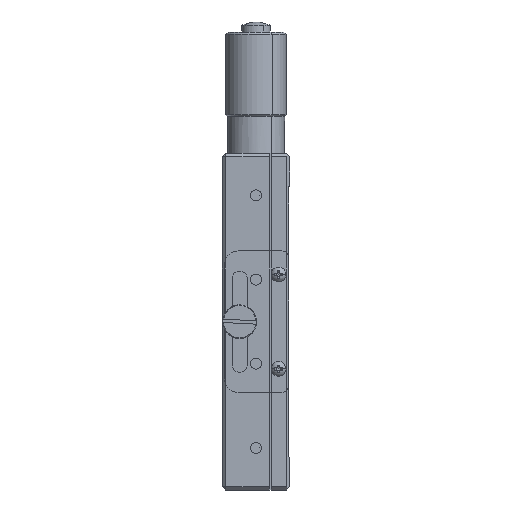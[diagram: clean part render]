
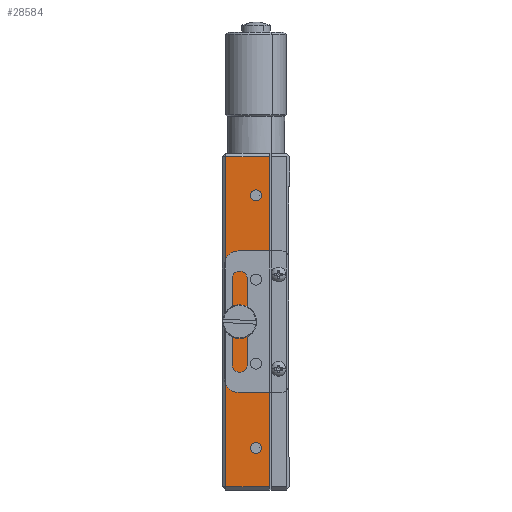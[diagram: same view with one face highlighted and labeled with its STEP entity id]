
A CAD part, left-side view. The second image highlights one B-rep face of the part: STEP entity #28584.
In plain terms, the highlighted planar face has unit normal (-1, 0, 0).
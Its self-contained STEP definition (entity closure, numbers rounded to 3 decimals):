
#259 = VERTEX_POINT ( 'NONE', #24310 ) ;
#405 = CARTESIAN_POINT ( 'NONE',  ( -50., 14.85, -51.65 ) ) ;
#526 = EDGE_LOOP ( 'NONE', ( #62880, #63104 ) ) ;
#1198 = AXIS2_PLACEMENT_3D ( 'NONE', #52489, #13809, #58879 ) ;
#1474 = AXIS2_PLACEMENT_3D ( 'NONE', #74197, #35602, #80610 ) ;
#3101 = CIRCLE ( 'NONE', #58602, 1.65 ) ;
#3130 = CARTESIAN_POINT ( 'NONE',  ( -50., 10., -87.5 ) ) ;
#3352 = CARTESIAN_POINT ( 'NONE',  ( -50., 10., -12.5 ) ) ;
#4309 = DIRECTION ( 'NONE',  ( -1., 0., 0. ) ) ;
#5387 = CARTESIAN_POINT ( 'NONE',  ( -50., 14.85, -48.35 ) ) ;
#5516 = AXIS2_PLACEMENT_3D ( 'NONE', #58438, #58137, #57764 ) ;
#5554 = CARTESIAN_POINT ( 'NONE',  ( -50., 10., -39.15 ) ) ;
#6186 = LINE ( 'NONE', #46962, #70825 ) ;
#6877 = EDGE_CURVE ( 'NONE', #75825, #41485, #36687, .T. ) ;
#7498 = EDGE_CURVE ( 'NONE', #46618, #44050, #63796, .T. ) ;
#9727 = DIRECTION ( 'NONE',  ( 0., 0., 1. ) ) ;
#9962 = DIRECTION ( 'NONE',  ( 0., 0., 1. ) ) ;
#11026 = EDGE_LOOP ( 'NONE', ( #69610, #70169, #71509, #72922 ) ) ;
#11140 = CIRCLE ( 'NONE', #66495, 1.65 ) ;
#13809 = DIRECTION ( 'NONE',  ( -1., 0., 0. ) ) ;
#14623 = AXIS2_PLACEMENT_3D ( 'NONE', #3130, #48452, #9727 ) ;
#15842 = CIRCLE ( 'NONE', #24121, 1.65 ) ;
#18224 = DIRECTION ( 'NONE',  ( -1., 0., 0. ) ) ;
#18412 = CARTESIAN_POINT ( 'NONE',  ( -50., 6., -1. ) ) ;
#18789 = CARTESIAN_POINT ( 'NONE',  ( -50., 10., -37.5 ) ) ;
#20315 = FACE_OUTER_BOUND ( 'NONE', #11026, .T. ) ;
#21563 = EDGE_LOOP ( 'NONE', ( #66857, #67202 ) ) ;
#21945 = CARTESIAN_POINT ( 'NONE',  ( -50., 6., 0. ) ) ;
#22293 = CARTESIAN_POINT ( 'NONE',  ( -50., 6., -99. ) ) ;
#22380 = FACE_BOUND ( 'NONE', #44423, .T. ) ;
#22484 = PLANE ( 'NONE',  #54404 ) ;
#22878 = CARTESIAN_POINT ( 'NONE',  ( -50., 10., -89.15 ) ) ;
#24121 = AXIS2_PLACEMENT_3D ( 'NONE', #3352, #48670, #9962 ) ;
#24222 = LINE ( 'NONE', #74585, #35058 ) ;
#24310 = CARTESIAN_POINT ( 'NONE',  ( -50., 10., -35.85 ) ) ;
#24656 = VERTEX_POINT ( 'NONE', #5387 ) ;
#25380 = DIRECTION ( 'NONE',  ( 0., 0., 1. ) ) ;
#26278 = CIRCLE ( 'NONE', #1474, 1.65 ) ;
#27189 = DIRECTION ( 'NONE',  ( -1., 0., 0. ) ) ;
#28584 = ADVANCED_FACE ( 'NONE', ( #56501, #22380, #71716, #54538, #37437, #20315 ), #22484, .T. ) ;
#28593 = CARTESIAN_POINT ( 'NONE',  ( -50., 19., -1. ) ) ;
#29050 = CIRCLE ( 'NONE', #14623, 1.65 ) ;
#30037 = AXIS2_PLACEMENT_3D ( 'NONE', #53856, #53782, #53688 ) ;
#31877 = LINE ( 'NONE', #59781, #81204 ) ;
#33410 = EDGE_CURVE ( 'NONE', #62656, #62367, #29050, .T. ) ;
#34262 = DIRECTION ( 'NONE',  ( 0., -1., 0. ) ) ;
#35058 = VECTOR ( 'NONE', #74847, 1000. ) ;
#35421 = DIRECTION ( 'NONE',  ( 0., 0., 1. ) ) ;
#35602 = DIRECTION ( 'NONE',  ( -1., 0., 0. ) ) ;
#36249 = EDGE_LOOP ( 'NONE', ( #65793, #66117 ) ) ;
#36687 = CIRCLE ( 'NONE', #5516, 1.65 ) ;
#37437 = FACE_BOUND ( 'NONE', #82422, .T. ) ;
#38074 = EDGE_CURVE ( 'NONE', #41485, #75825, #15842, .T. ) ;
#39580 = VERTEX_POINT ( 'NONE', #46163 ) ;
#39861 = DIRECTION ( 'NONE',  ( 0., 1., 0. ) ) ;
#40136 = VERTEX_POINT ( 'NONE', #405 ) ;
#40509 = CIRCLE ( 'NONE', #60122, 1.65 ) ;
#41485 = VERTEX_POINT ( 'NONE', #72964 ) ;
#41952 = EDGE_CURVE ( 'NONE', #52159, #259, #75966, .T. ) ;
#42819 = EDGE_CURVE ( 'NONE', #259, #52159, #3101, .T. ) ;
#43143 = CARTESIAN_POINT ( 'NONE',  ( -50., 10., -87.5 ) ) ;
#44050 = VERTEX_POINT ( 'NONE', #65344 ) ;
#44423 = EDGE_LOOP ( 'NONE', ( #64257, #64653 ) ) ;
#46163 = CARTESIAN_POINT ( 'NONE',  ( -50., 19., -99. ) ) ;
#46618 = VERTEX_POINT ( 'NONE', #47459 ) ;
#46801 = EDGE_CURVE ( 'NONE', #44050, #46618, #26278, .T. ) ;
#46962 = CARTESIAN_POINT ( 'NONE',  ( -50., 20., -1. ) ) ;
#47459 = CARTESIAN_POINT ( 'NONE',  ( -50., 10., -64.15 ) ) ;
#48452 = DIRECTION ( 'NONE',  ( -1., 0., 0. ) ) ;
#48670 = DIRECTION ( 'NONE',  ( -1., 0., 0. ) ) ;
#49587 = DIRECTION ( 'NONE',  ( 0., 0., 1. ) ) ;
#50926 = EDGE_CURVE ( 'NONE', #62367, #62656, #40509, .T. ) ;
#52159 = VERTEX_POINT ( 'NONE', #5554 ) ;
#52424 = EDGE_CURVE ( 'NONE', #24656, #40136, #76631, .T. ) ;
#52489 = CARTESIAN_POINT ( 'NONE',  ( -50., 10., -37.5 ) ) ;
#53281 = VERTEX_POINT ( 'NONE', #22293 ) ;
#53688 = DIRECTION ( 'NONE',  ( 0., 0., 1. ) ) ;
#53782 = DIRECTION ( 'NONE',  ( -1., 0., 0. ) ) ;
#53856 = CARTESIAN_POINT ( 'NONE',  ( -50., 10., -62.5 ) ) ;
#54361 = CARTESIAN_POINT ( 'NONE',  ( -50., 10., -14.15 ) ) ;
#54404 = AXIS2_PLACEMENT_3D ( 'NONE', #67481, #74020, #35421 ) ;
#54538 = FACE_BOUND ( 'NONE', #21563, .T. ) ;
#56501 = FACE_BOUND ( 'NONE', #526, .T. ) ;
#56753 = CARTESIAN_POINT ( 'NONE',  ( -50., 14.85, -50. ) ) ;
#57109 = EDGE_CURVE ( 'NONE', #79371, #39580, #24222, .T. ) ;
#57395 = VERTEX_POINT ( 'NONE', #18412 ) ;
#57764 = DIRECTION ( 'NONE',  ( 0., 0., 1. ) ) ;
#58137 = DIRECTION ( 'NONE',  ( -1., 0., 0. ) ) ;
#58438 = CARTESIAN_POINT ( 'NONE',  ( -50., 10., -12.5 ) ) ;
#58484 = EDGE_CURVE ( 'NONE', #39580, #53281, #31877, .T. ) ;
#58571 = CARTESIAN_POINT ( 'NONE',  ( -50., 10., -85.85 ) ) ;
#58602 = AXIS2_PLACEMENT_3D ( 'NONE', #18789, #63841, #25380 ) ;
#58875 = VECTOR ( 'NONE', #60449, 1000. ) ;
#58879 = DIRECTION ( 'NONE',  ( 0., 0., 1. ) ) ;
#59781 = CARTESIAN_POINT ( 'NONE',  ( -50., 20., -99. ) ) ;
#59836 = EDGE_CURVE ( 'NONE', #57395, #53281, #78114, .T. ) ;
#60122 = AXIS2_PLACEMENT_3D ( 'NONE', #43143, #4309, #49587 ) ;
#60449 = DIRECTION ( 'NONE',  ( 0., 0., -1. ) ) ;
#62115 = EDGE_CURVE ( 'NONE', #57395, #79371, #6186, .T. ) ;
#62367 = VERTEX_POINT ( 'NONE', #58571 ) ;
#62656 = VERTEX_POINT ( 'NONE', #22878 ) ;
#62880 = ORIENTED_EDGE ( 'NONE', *, *, #38074, .F. ) ;
#63104 = ORIENTED_EDGE ( 'NONE', *, *, #6877, .F. ) ;
#63300 = DIRECTION ( 'NONE',  ( 0., 0., 1. ) ) ;
#63796 = CIRCLE ( 'NONE', #30037, 1.65 ) ;
#63841 = DIRECTION ( 'NONE',  ( -1., 0., 0. ) ) ;
#64257 = ORIENTED_EDGE ( 'NONE', *, *, #42819, .F. ) ;
#64653 = ORIENTED_EDGE ( 'NONE', *, *, #41952, .F. ) ;
#65344 = CARTESIAN_POINT ( 'NONE',  ( -50., 10., -60.85 ) ) ;
#65642 = CARTESIAN_POINT ( 'NONE',  ( -50., 14.85, -50. ) ) ;
#65793 = ORIENTED_EDGE ( 'NONE', *, *, #46801, .F. ) ;
#66117 = ORIENTED_EDGE ( 'NONE', *, *, #7498, .F. ) ;
#66495 = AXIS2_PLACEMENT_3D ( 'NONE', #56753, #18224, #63300 ) ;
#66690 = AXIS2_PLACEMENT_3D ( 'NONE', #65642, #27189, #72172 ) ;
#66857 = ORIENTED_EDGE ( 'NONE', *, *, #50926, .F. ) ;
#67202 = ORIENTED_EDGE ( 'NONE', *, *, #33410, .F. ) ;
#67481 = CARTESIAN_POINT ( 'NONE',  ( -50., 20., 0. ) ) ;
#68164 = ORIENTED_EDGE ( 'NONE', *, *, #52424, .F. ) ;
#69454 = ORIENTED_EDGE ( 'NONE', *, *, #82026, .F. ) ;
#69610 = ORIENTED_EDGE ( 'NONE', *, *, #57109, .T. ) ;
#70169 = ORIENTED_EDGE ( 'NONE', *, *, #58484, .T. ) ;
#70825 = VECTOR ( 'NONE', #39861, 1000. ) ;
#71509 = ORIENTED_EDGE ( 'NONE', *, *, #59836, .F. ) ;
#71716 = FACE_BOUND ( 'NONE', #36249, .T. ) ;
#72172 = DIRECTION ( 'NONE',  ( 0., 0., 1. ) ) ;
#72922 = ORIENTED_EDGE ( 'NONE', *, *, #62115, .T. ) ;
#72964 = CARTESIAN_POINT ( 'NONE',  ( -50., 10., -10.85 ) ) ;
#74020 = DIRECTION ( 'NONE',  ( -1., 0., 0. ) ) ;
#74197 = CARTESIAN_POINT ( 'NONE',  ( -50., 10., -62.5 ) ) ;
#74585 = CARTESIAN_POINT ( 'NONE',  ( -50., 19., -100. ) ) ;
#74847 = DIRECTION ( 'NONE',  ( 0., 0., -1. ) ) ;
#75825 = VERTEX_POINT ( 'NONE', #54361 ) ;
#75966 = CIRCLE ( 'NONE', #1198, 1.65 ) ;
#76631 = CIRCLE ( 'NONE', #66690, 1.65 ) ;
#78114 = LINE ( 'NONE', #21945, #58875 ) ;
#79371 = VERTEX_POINT ( 'NONE', #28593 ) ;
#80610 = DIRECTION ( 'NONE',  ( 0., 0., 1. ) ) ;
#81204 = VECTOR ( 'NONE', #34262, 1000. ) ;
#82026 = EDGE_CURVE ( 'NONE', #40136, #24656, #11140, .T. ) ;
#82422 = EDGE_LOOP ( 'NONE', ( #68164, #69454 ) ) ;
